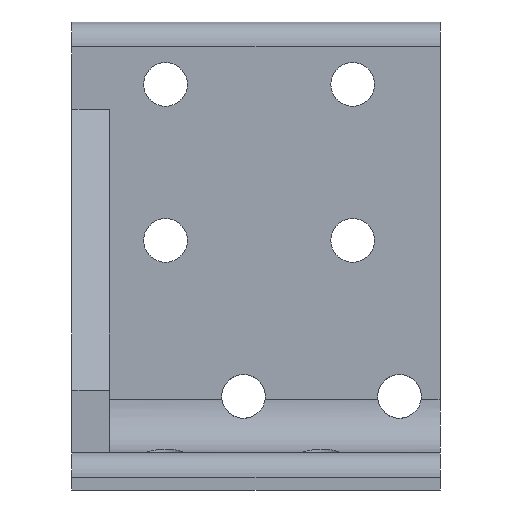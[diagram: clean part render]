
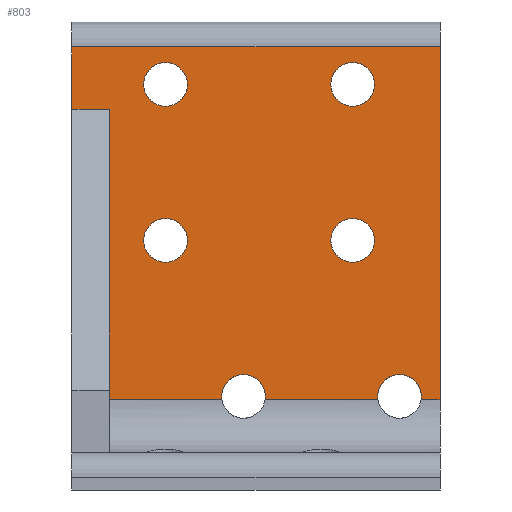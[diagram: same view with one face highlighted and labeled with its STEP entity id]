
A CAD part, front view. The second image highlights one B-rep face of the part: STEP entity #803.
In plain terms, the highlighted planar face has unit normal (0, -1, 0).
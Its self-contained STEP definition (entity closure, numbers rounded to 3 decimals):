
#40=LINE('',#1075,#83);
#41=LINE('',#1080,#84);
#42=LINE('',#1082,#85);
#43=LINE('',#1084,#86);
#44=LINE('',#1086,#87);
#45=LINE('',#1088,#88);
#46=LINE('',#1090,#89);
#47=LINE('',#1092,#90);
#48=LINE('',#1094,#91);
#49=LINE('',#1096,#92);
#83=VECTOR('',#910,1000.);
#84=VECTOR('',#913,1000.);
#85=VECTOR('',#914,1000.);
#86=VECTOR('',#915,1000.);
#87=VECTOR('',#916,1000.);
#88=VECTOR('',#917,1000.);
#89=VECTOR('',#918,1000.);
#90=VECTOR('',#919,1000.);
#91=VECTOR('',#920,1000.);
#92=VECTOR('',#921,1000.);
#126=ORIENTED_EDGE('',*,*,#284,.T.);
#127=ORIENTED_EDGE('',*,*,#285,.T.);
#128=ORIENTED_EDGE('',*,*,#286,.T.);
#129=ORIENTED_EDGE('',*,*,#287,.T.);
#130=ORIENTED_EDGE('',*,*,#288,.T.);
#131=ORIENTED_EDGE('',*,*,#289,.T.);
#132=ORIENTED_EDGE('',*,*,#290,.T.);
#133=ORIENTED_EDGE('',*,*,#291,.F.);
#134=ORIENTED_EDGE('',*,*,#292,.T.);
#135=ORIENTED_EDGE('',*,*,#293,.T.);
#136=ORIENTED_EDGE('',*,*,#294,.F.);
#137=ORIENTED_EDGE('',*,*,#295,.F.);
#138=ORIENTED_EDGE('',*,*,#296,.T.);
#139=ORIENTED_EDGE('',*,*,#297,.T.);
#140=ORIENTED_EDGE('',*,*,#298,.T.);
#141=ORIENTED_EDGE('',*,*,#299,.T.);
#284=EDGE_CURVE('',#363,#363,#423,.T.);
#285=EDGE_CURVE('',#364,#364,#424,.T.);
#286=EDGE_CURVE('',#365,#365,#425,.T.);
#287=EDGE_CURVE('',#366,#366,#426,.T.);
#288=EDGE_CURVE('',#367,#368,#40,.F.);
#289=EDGE_CURVE('',#368,#369,#427,.T.);
#290=EDGE_CURVE('',#369,#370,#41,.F.);
#291=EDGE_CURVE('',#371,#370,#42,.T.);
#292=EDGE_CURVE('',#371,#372,#43,.T.);
#293=EDGE_CURVE('',#372,#373,#44,.T.);
#294=EDGE_CURVE('',#374,#373,#45,.T.);
#295=EDGE_CURVE('',#375,#374,#46,.T.);
#296=EDGE_CURVE('',#375,#376,#47,.T.);
#297=EDGE_CURVE('',#376,#377,#48,.T.);
#298=EDGE_CURVE('',#377,#378,#49,.F.);
#299=EDGE_CURVE('',#378,#367,#428,.T.);
#363=VERTEX_POINT('',#1068);
#364=VERTEX_POINT('',#1070);
#365=VERTEX_POINT('',#1072);
#366=VERTEX_POINT('',#1074);
#367=VERTEX_POINT('',#1076);
#368=VERTEX_POINT('',#1077);
#369=VERTEX_POINT('',#1079);
#370=VERTEX_POINT('',#1081);
#371=VERTEX_POINT('',#1083);
#372=VERTEX_POINT('',#1085);
#373=VERTEX_POINT('',#1087);
#374=VERTEX_POINT('',#1089);
#375=VERTEX_POINT('',#1091);
#376=VERTEX_POINT('',#1093);
#377=VERTEX_POINT('',#1095);
#378=VERTEX_POINT('',#1097);
#423=CIRCLE('',#838,3.5);
#424=CIRCLE('',#839,3.5);
#425=CIRCLE('',#840,3.5);
#426=CIRCLE('',#841,3.5);
#427=CIRCLE('',#842,3.5);
#428=CIRCLE('',#843,3.5);
#455=EDGE_LOOP('',(#126));
#456=EDGE_LOOP('',(#127));
#457=EDGE_LOOP('',(#128));
#458=EDGE_LOOP('',(#129));
#459=EDGE_LOOP('',(#130,#131,#132,#133,#134,#135,#136,#137,#138,#139,#140,
#141));
#520=FACE_BOUND('',#455,.T.);
#521=FACE_BOUND('',#456,.T.);
#522=FACE_BOUND('',#457,.T.);
#523=FACE_BOUND('',#458,.T.);
#524=FACE_BOUND('',#459,.T.);
#585=PLANE('',#837);
#803=ADVANCED_FACE('',(#520,#521,#522,#523,#524),#585,.F.);
#837=AXIS2_PLACEMENT_3D('',#1066,#900,#901);
#838=AXIS2_PLACEMENT_3D('',#1067,#902,#903);
#839=AXIS2_PLACEMENT_3D('',#1069,#904,#905);
#840=AXIS2_PLACEMENT_3D('',#1071,#906,#907);
#841=AXIS2_PLACEMENT_3D('',#1073,#908,#909);
#842=AXIS2_PLACEMENT_3D('',#1078,#911,#912);
#843=AXIS2_PLACEMENT_3D('',#1098,#922,#923);
#900=DIRECTION('',(0.,1.,0.));
#901=DIRECTION('',(0.,0.,1.));
#902=DIRECTION('',(0.,1.,0.));
#903=DIRECTION('',(0.,0.,1.));
#904=DIRECTION('',(0.,1.,0.));
#905=DIRECTION('',(0.,0.,1.));
#906=DIRECTION('',(0.,1.,0.));
#907=DIRECTION('',(0.,0.,1.));
#908=DIRECTION('',(0.,1.,0.));
#909=DIRECTION('',(0.,0.,1.));
#910=DIRECTION('',(-1.,0.,0.));
#911=DIRECTION('',(0.,1.,0.));
#912=DIRECTION('',(0.,0.,1.));
#913=DIRECTION('',(-1.,0.,0.));
#914=DIRECTION('',(0.,0.,-1.));
#915=DIRECTION('',(-1.,0.,0.));
#916=DIRECTION('',(0.,0.,-1.));
#917=DIRECTION('',(-1.,0.,0.));
#918=DIRECTION('',(0.,0.,1.));
#919=DIRECTION('',(-1.,0.,0.));
#920=DIRECTION('',(0.,0.,-1.));
#921=DIRECTION('',(-1.,0.,0.));
#922=DIRECTION('',(0.,1.,0.));
#923=DIRECTION('',(0.,0.,1.));
#1066=CARTESIAN_POINT('',(29.5,-6.,75.));
#1067=CARTESIAN_POINT('',(-14.5,-6.,65.));
#1068=CARTESIAN_POINT('',(-14.5,-6.,68.5));
#1069=CARTESIAN_POINT('',(-14.5,-6.,40.));
#1070=CARTESIAN_POINT('',(-14.5,-6.,43.5));
#1071=CARTESIAN_POINT('',(15.5,-6.,40.));
#1072=CARTESIAN_POINT('',(15.5,-6.,43.5));
#1073=CARTESIAN_POINT('',(15.5,-6.,65.));
#1074=CARTESIAN_POINT('',(15.5,-6.,68.5));
#1075=CARTESIAN_POINT('',(29.5,-6.,14.5));
#1076=CARTESIAN_POINT('',(1.464,-6.,14.5));
#1077=CARTESIAN_POINT('',(19.536,-6.,14.5));
#1078=CARTESIAN_POINT('',(23.,-6.,15.));
#1079=CARTESIAN_POINT('',(26.464,-6.,14.5));
#1080=CARTESIAN_POINT('',(29.5,-6.,14.5));
#1081=CARTESIAN_POINT('',(29.5,-6.,14.5));
#1082=CARTESIAN_POINT('',(29.5,-6.,75.));
#1083=CARTESIAN_POINT('',(29.5,-6.,71.));
#1084=CARTESIAN_POINT('',(29.5,-6.,71.));
#1085=CARTESIAN_POINT('',(-29.5,-6.,71.));
#1086=CARTESIAN_POINT('',(-29.5,-6.,75.));
#1087=CARTESIAN_POINT('',(-29.5,-6.,61.));
#1088=CARTESIAN_POINT('',(-23.5,-6.,61.));
#1089=CARTESIAN_POINT('',(-23.5,-6.,61.));
#1090=CARTESIAN_POINT('',(-23.5,-6.,16.));
#1091=CARTESIAN_POINT('',(-23.5,-6.,16.));
#1092=CARTESIAN_POINT('',(-23.5,-6.,16.));
#1093=CARTESIAN_POINT('',(-29.5,-6.,16.));
#1094=CARTESIAN_POINT('',(-29.5,-6.,75.));
#1095=CARTESIAN_POINT('',(-29.5,-6.,14.5));
#1096=CARTESIAN_POINT('',(29.5,-6.,14.5));
#1097=CARTESIAN_POINT('',(-5.464,-6.,14.5));
#1098=CARTESIAN_POINT('',(-2.,-6.,15.));
